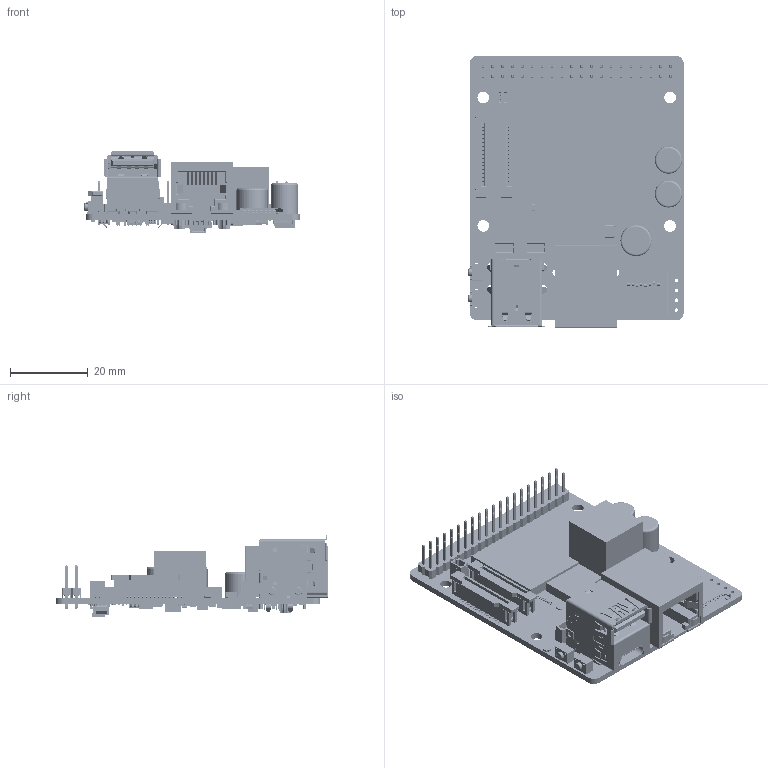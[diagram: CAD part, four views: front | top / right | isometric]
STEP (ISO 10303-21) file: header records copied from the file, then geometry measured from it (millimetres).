
FILE_DESCRIPTION((''),'2;1');
FILE_NAME('ESP32-P4-WIFI6-POE-ETH_V2_0_ASM','2025-12-13T18:06:58',('ag'),(''),'CREO PARAMETRIC BY PTC INC, 2021063','CREO PARAMETRIC BY PTC INC, 2021063','');
FILE_SCHEMA(('CONFIG_CONTROL_DESIGN','SHAPE_APPEARANCE_LAYERS_GROUPS'));
Products named in the file (430): BOARD-1069; USER_LIBRARY-0201_0603M__CAP_1; USER_LIBRARY-0201_0603M__CAP_2; USER_LIBRARY-0201_0603M__CAP_3; USER_LIBRARY-0201_0603M__CAP_ASM; C58_ASM; EXTRUDED-25643; 776259600_ASM; Y2_ASM; EXTRUDED-26038; 776259472_ASM; Y1_ASM; EXTRUDED-26433; 1503431776_ASM; U7_ASM; EXTRUDED-26852; 1025649296_ASM; EXTRUDED-27249; 1025649040_ASM; U4_ASM; BOARD-27648; EXTRUDED-28415; 858032368_ASM; CYLINDER-28787; 858032240_ASM; EXTRUDED_2; 858031856_ASM; CYLINDER_2; 857275360_ASM; EXTRUDED_3; 894460672_ASM; DESIGNATOR14_ASM; USER_LIBRARY-WSON-8_6X8MM_ASM; U12_ASM; USER_LIBRARY-RES_0603-0201_1; USER_LIBRARY-RES_0603-0201_2; USER_LIBRARY-RES_0603-0201_3; USER_LIBRARY-RES_0603-0201_4; USER_LIBRARY-RES_0603-0201_ASM; R51_ASM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
Assembly tree (691 placements, depth 7):
  ESP32-P4-WIFI6-POE-ETH_V2_0_ASM
    BOARD-1069
    C58_ASM
      USER_LIBRARY-0201_0603M__CAP_ASM
        USER_LIBRARY-0201_0603M__CAP_1
        USER_LIBRARY-0201_0603M__CAP_2
        USER_LIBRARY-0201_0603M__CAP_3
    Y2_ASM
      776259600_ASM
        EXTRUDED-25643
    Y1_ASM
      776259472_ASM
        EXTRUDED-26038
    U7_ASM
      1503431776_ASM
        EXTRUDED-26433
    U4_ASM
      1025649296_ASM  x6
        EXTRUDED-26852
      1025649040_ASM
        EXTRUDED-27249
    U12_ASM
      USER_LIBRARY-WSON-8_6X8MM_ASM
        BOARD-27648
        DESIGNATOR14_ASM
          858032368_ASM
            EXTRUDED-28415
          858032240_ASM  x8
            CYLINDER-28787
          858031856_ASM  x8
            EXTRUDED_2
          857275360_ASM
            CYLINDER_2
          894460672_ASM
            EXTRUDED_3
    R51_ASM
      USER_LIBRARY-RES_0603-0201_ASM
        USER_LIBRARY-RES_0603-0201_1
        USER_LIBRARY-RES_0603-0201_2
        USER_LIBRARY-RES_0603-0201_3
        USER_LIBRARY-RES_0603-0201_4
    R49_ASM
      USER_LIBRARY-RES_0603-0201_ASM
        USER_LIBRARY-RES_0603-0201_1
        USER_LIBRARY-RES_0603-0201_2
        USER_LIBRARY-RES_0603-0201_3
        USER_LIBRARY-RES_0603-0201_4
    R45_ASM
      USER_LIBRARY-RES_0603-0201_ASM
        USER_LIBRARY-RES_0603-0201_1
        USER_LIBRARY-RES_0603-0201_2
        USER_LIBRARY-RES_0603-0201_3
        USER_LIBRARY-RES_0603-0201_4
    R42_ASM
      USER_LIBRARY-RES_0603-0201_ASM
        USER_LIBRARY-RES_0603-0201_1
        USER_LIBRARY-RES_0603-0201_2
        USER_LIBRARY-RES_0603-0201_3
        USER_LIBRARY-RES_0603-0201_4
    R38_ASM
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Bounding box: 55.36 x 69.99 x 20.89 mm (x, y, z)
Volume: 18596.4 mm3; surface area: 22066.4 mm2
Topology: 815 solids, 854 shells, 56888 faces, 149207 edges, 97340 vertices
Faces by surface type: plane 38228, extrusion 12586, cylinder 4668, sphere 1206, torus 138, bspline 62
Entity records: 498737 total; most frequent: CARTESIAN_POINT 108671, ORIENTED_EDGE 61729, DIRECTION 52546, EDGE_CURVE 30883, PRESENTATION_STYLE_ASSIGNMENT 27752, STYLED_ITEM 26338, VECTOR 25734, CURVE_STYLE 24483
